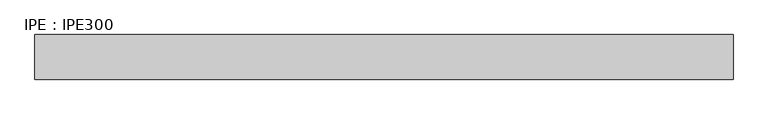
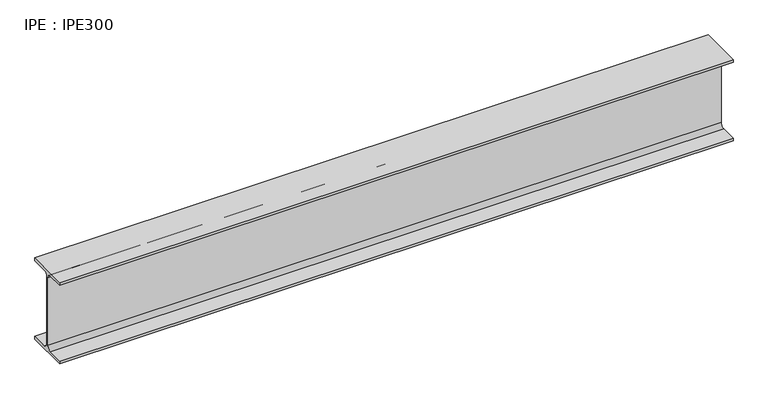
"""IFC4 building model written with IfcOpenShell, lengths in millimetres: beam geometry, IPE : IPE300."""

import ifcopenshell
import ifcopenshell.guid

model = None  # the IFC model being written
_history = None  # IfcOwnerHistory: only IFC2X3 demands one
_inside = {}  # id of a spatial element -> (the spatial element, [elements in it])
_under = {}  # id of a project, library or spatial element -> (it, [spatial elements below it])
_declared = {}  # id of a project -> (the project, [libraries it declares])
_typed = {}  # id of a type object -> (the type object, [elements of that type])
_made_of = {}  # id of a material, layer set ... -> (it, [elements and type objects made of it])


def new_model(schema):
    """Start an empty IFC model of exactly this schema.

    Asked for "IFC4X3", IfcOpenShell would pick the latest addendum, in which some entities
    have other attributes; the version numbers below select the first issue.
    IFC2X3 requires an IfcOwnerHistory on every rooted entity: one is made here for all.
    """
    global model, _history
    if schema == "IFC4X3":
        model = ifcopenshell.file(schema_version=(4, 3, 0, 0))
    else:
        model = ifcopenshell.file(schema=schema)
    _inside.clear()
    _under.clear()
    _declared.clear()
    _typed.clear()
    _made_of.clear()
    _history = None
    if model.schema == "IFC2X3":
        org = make("IfcOrganization", Name="unknown")
        user = make(
            "IfcPersonAndOrganization",
            ThePerson=make("IfcPerson", FamilyName="unknown"),
            TheOrganization=org,
        )
        app = make(
            "IfcApplication",
            ApplicationDeveloper=org,
            Version="unknown",
            ApplicationFullName="unknown",
            ApplicationIdentifier="unknown",
        )
        _history = make(
            "IfcOwnerHistory",
            OwningUser=user,
            OwningApplication=app,
            ChangeAction="ADDED",
            CreationDate=0,
        )
    return model


def make(cls, **values):
    """One entity of the class cls with the attributes given. An attribute that is None is left unset."""
    return model.create_entity(
        cls, **{name: value for name, value in values.items() if value is not None}
    )


def rooted(cls, **values):
    """An entity with a GlobalId (a new one), such as an element, a storey or a relation."""
    return make(cls, GlobalId=ifcopenshell.guid.new(), OwnerHistory=_history, **values)


def si_unit(unit_type, name, prefix=None):
    """IfcSIUnit, for example si_unit("LENGTHUNIT", "METRE", prefix="MILLI")."""
    return make("IfcSIUnit", UnitType=unit_type, Prefix=prefix, Name=name)


def assignment(units):
    """IfcUnitAssignment: the units of a project."""
    return None if units is None else make("IfcUnitAssignment", Units=units)


def point(xyz):
    """IfcCartesianPoint."""
    return None if xyz is None else make("IfcCartesianPoint", Coordinates=xyz)


def direction(xyz):
    """IfcDirection."""
    return None if xyz is None else make("IfcDirection", DirectionRatios=xyz)


def frame(location, z_axis=None, x_axis=None):
    """IfcAxis2Placement3D, a coordinate frame: its origin and axes. An axis left out is left unset."""
    return make(
        "IfcAxis2Placement3D",
        Location=point(location),
        Axis=direction(z_axis),
        RefDirection=direction(x_axis),
    )


def frame_2d(location, x_axis=None):
    """IfcAxis2Placement2D, a coordinate frame in the plane: its origin and x axis."""
    return make(
        "IfcAxis2Placement2D", Location=point(location), RefDirection=direction(x_axis)
    )


def origin():
    """The frame at (0, 0, 0) with its axes left unset."""
    return frame((0.0, 0.0, 0.0))


def place(relative_to, where):
    """IfcLocalPlacement: puts the frame where relative to a parent placement (None: the world)."""
    return make(
        "IfcLocalPlacement", PlacementRelTo=relative_to, RelativePlacement=where
    )


def context(
    kind, dimensions, precision=None, world=None, true_north=None, identifier=None
):
    """IfcGeometricRepresentationContext, for example the 3D "Model" context."""
    return make(
        "IfcGeometricRepresentationContext",
        ContextIdentifier=identifier,
        ContextType=kind,
        CoordinateSpaceDimension=dimensions,
        Precision=precision,
        WorldCoordinateSystem=world,
        TrueNorth=true_north,
    )


def project(units=None, contexts=None):
    """IfcProject with its units and contexts."""
    return rooted(
        "IfcProject",
        Name="project",
        RepresentationContexts=contexts,
        UnitsInContext=assignment(units),
    )


def spatial(cls, under=None, at=None, **own):
    """A site, building, storey or space (cls), placed at a placement, below another one or the project."""
    s = rooted(cls, ObjectPlacement=at, **own)
    if under is not None:
        _under.setdefault(under.id(), (under, []))[1].append(s)
    return s


def polyline(points):
    """IfcPolyline through the points."""
    return make("IfcPolyline", Points=[point(p) for p in points])


def circle_curve(where, radius):
    """IfcCircle in the frame where."""
    return make("IfcCircle", Position=where, Radius=radius)


def trimmed(basis, trim1, trim2, sense, master):
    """IfcTrimmedCurve: the piece of a basis curve between two trims."""
    return make(
        "IfcTrimmedCurve",
        BasisCurve=basis,
        Trim1=trim1,
        Trim2=trim2,
        SenseAgreement=sense,
        MasterRepresentation=master,
    )


def segment(curve, same_sense, transition):
    """IfcCompositeCurveSegment."""
    return make(
        "IfcCompositeCurveSegment",
        Transition=transition,
        SameSense=same_sense,
        ParentCurve=curve,
    )


def composite_curve(segments, self_intersect=None):
    """IfcCompositeCurve: segments joined end to end."""
    return make("IfcCompositeCurve", Segments=segments, SelfIntersect=self_intersect)


def outline(outer, holes=None, kind="AREA"):
    """IfcArbitraryClosedProfileDef: a profile drawn as a closed curve; with holes, ...WithVoids."""
    if holes is None:
        return make("IfcArbitraryClosedProfileDef", ProfileType=kind, OuterCurve=outer)
    return make(
        "IfcArbitraryProfileDefWithVoids",
        ProfileType=kind,
        OuterCurve=outer,
        InnerCurves=holes,
    )


def extrude(swept, where, along, depth):
    """IfcExtrudedAreaSolid: the profile swept, set in the frame where, extruded along a direction by depth."""
    return make(
        "IfcExtrudedAreaSolid",
        SweptArea=swept,
        Position=where,
        ExtrudedDirection=direction(along),
        Depth=depth,
    )


def shape(context_of_items, identifier, shape_type, items):
    """IfcShapeRepresentation: the items that make up one representation, for example the "Body"."""
    return make(
        "IfcShapeRepresentation",
        ContextOfItems=context_of_items,
        RepresentationIdentifier=identifier,
        RepresentationType=shape_type,
        Items=items,
    )


def source(mapping_origin, context_of_items, identifier, shape_type, items):
    """IfcRepresentationMap: a shape defined once, which mapped items show again and again."""
    return make(
        "IfcRepresentationMap",
        MappingOrigin=mapping_origin,
        MappedRepresentation=shape(context_of_items, identifier, shape_type, items),
    )


def transform(
    local_origin,
    x_axis=None,
    y_axis=None,
    z_axis=None,
    scale=None,
    scale2=None,
    scale3=None,
    uniform=True,
):
    """IfcCartesianTransformationOperator3D, or its non-uniform kind. x_axis, y_axis, z_axis: its Axis1, 2, 3."""
    if uniform:
        return make(
            "IfcCartesianTransformationOperator3D",
            Axis1=direction(x_axis),
            Axis2=direction(y_axis),
            LocalOrigin=point(local_origin),
            Scale=scale,
            Axis3=direction(z_axis),
        )
    return make(
        "IfcCartesianTransformationOperator3DnonUniform",
        Axis1=direction(x_axis),
        Axis2=direction(y_axis),
        LocalOrigin=point(local_origin),
        Scale=scale,
        Axis3=direction(z_axis),
        Scale2=scale2,
        Scale3=scale3,
    )


def mapped(mapping_source, mapping_target):
    """IfcMappedItem: shows the shape of a source again, moved by a transform."""
    return make(
        "IfcMappedItem", MappingSource=mapping_source, MappingTarget=mapping_target
    )


def made_of(thing, what):
    """Note that an element or type object is made of a material, layer set ...; save() writes the relation."""
    if what is not None:
        _made_of.setdefault(what.id(), (what, []))[1].append(thing)
    return thing


def element(
    cls,
    number,
    at=None,
    inside=None,
    cuts=None,
    type_object=None,
    material=None,
    context=None,
    identifier="Body",
    shape_type=None,
    held_by="IfcProductDefinitionShape",
    body=None,
    shapes=None,
    **own,
):
    """One element of the class cls, such as IfcWall. Its Tag is "e" and its number.

    at: its placement. inside: the storey or other place that contains it. cuts: it is an
    opening in that element (IfcRelVoidsElement). A single representation is given by context,
    identifier, shape_type and body (its items); several are given by shapes. held_by: the class
    of the entity that holds the representations. save() writes the other relations.
    """
    e = rooted(cls, Tag="e%d" % number, ObjectPlacement=at, **own)
    if body is not None:
        shapes = [shape(context, identifier, shape_type, body)]
    if shapes is not None:
        e.Representation = make(held_by, Representations=shapes)
    if inside is not None:
        _inside.setdefault(inside.id(), (inside, []))[1].append(e)
    if cuts is not None:
        rooted(
            "IfcRelVoidsElement", RelatingBuildingElement=cuts, RelatedOpeningElement=e
        )
    if type_object is not None:
        _typed.setdefault(type_object.id(), (type_object, []))[1].append(e)
    return made_of(e, material)


def aggregate(whole, parts):
    """IfcRelAggregates: a whole, such as a stair, and the parts it consists of."""
    return rooted("IfcRelAggregates", RelatingObject=whole, RelatedObjects=parts)


def save(model, path):
    """Write the relations noted so far, then the file.

    IfcRelAggregates (storeys below a building ...), IfcRelContainedInSpatialStructure (elements
    in a storey), IfcRelDefinesByType, IfcRelAssociatesMaterial and IfcRelDeclares: one each for
    every whole, place, type object, material and project.
    """
    for whole, parts in _under.values():
        aggregate(whole, parts)
    for where, things in _inside.values():
        rooted(
            "IfcRelContainedInSpatialStructure",
            RelatedElements=things,
            RelatingStructure=where,
        )
    for kind, things in _typed.values():
        rooted("IfcRelDefinesByType", RelatedObjects=things, RelatingType=kind)
    for what, things in _made_of.values():
        rooted("IfcRelAssociatesMaterial", RelatedObjects=things, RelatingMaterial=what)
    for by, libraries in _declared.values():
        rooted("IfcRelDeclares", RelatingContext=by, RelatedDefinitions=libraries)
    model.write(path)


def ipe_ipe300_a2a2df0d(model_context):
    return source(origin(), model_context, "Body", "SweptSolid", [
        extrude(outline(composite_curve([segment(polyline([(75.0, -139.3), (75.0, -150.0), (-75.0, -150.0), (-75.0, -139.3), (-18.55, -139.3)]), True, "CONTINUOUS"), segment(trimmed(circle_curve(frame_2d((-18.55, -124.3)), 15.0), [point((-18.55, -139.3))], [point((-3.55, -124.3))], True, "CARTESIAN"), True, "CONTINUOUS"), segment(polyline([(-3.55, -124.3), (-3.55, 124.3)]), True, "CONTINUOUS"), segment(trimmed(circle_curve(frame_2d((-18.55, 124.3)), 15.0), [point((-3.55, 124.3))], [point((-18.55, 139.3))], True, "CARTESIAN"), True, "CONTINUOUS"), segment(polyline([(-18.55, 139.3), (-75.0, 139.3), (-75.0, 150.0), (75.0, 150.0), (75.0, 139.3), (18.55, 139.3)]), True, "CONTINUOUS"), segment(trimmed(circle_curve(frame_2d((18.55, 124.3)), 15.0), [point((18.55, 139.3))], [point((3.55, 124.3))], True, "CARTESIAN"), True, "CONTINUOUS"), segment(polyline([(3.55, 124.3), (3.55, -124.3)]), True, "CONTINUOUS"), segment(trimmed(circle_curve(frame_2d((18.55, -124.3)), 15.0), [point((3.55, -124.3))], [point((18.55, -139.3))], True, "CARTESIAN"), True, "CONTINUOUS"), segment(polyline([(18.55, -139.3), (75.0, -139.3)]), True, "CONTINUOUS")], self_intersect=False)), frame((-1240.0, 0.0, 0.0), z_axis=(1.0, 0.0, 0.0), x_axis=(0.0, 1.0, 0.0)), (0.0, 0.0, 1.0), 2347.3),
    ])


if __name__ == "__main__":
    model = new_model("IFC4")
    model_context = context("Model", 3, world=origin())
    ifc_project = project(units=[si_unit("LENGTHUNIT", "METRE", prefix="MILLI")], contexts=[model_context])
    site = spatial("IfcSite", under=ifc_project)
    building = spatial("IfcBuilding", under=site)
    placement = place(None, origin())
    ipe_ipe300_shape = ipe_ipe300_a2a2df0d(model_context)
    element("IfcBeam", 1, ObjectType="IPE : IPE300", at=placement, inside=building, context=model_context, shape_type="MappedRepresentation", body=[
        mapped(ipe_ipe300_shape, transform((0.0, 0.0, 0.0), x_axis=(1.0, 0.0, 0.0), y_axis=(0.0, 1.0, 0.0), z_axis=(0.0, 0.0, 1.0))),
    ])
    save(model, "model.ifc")
